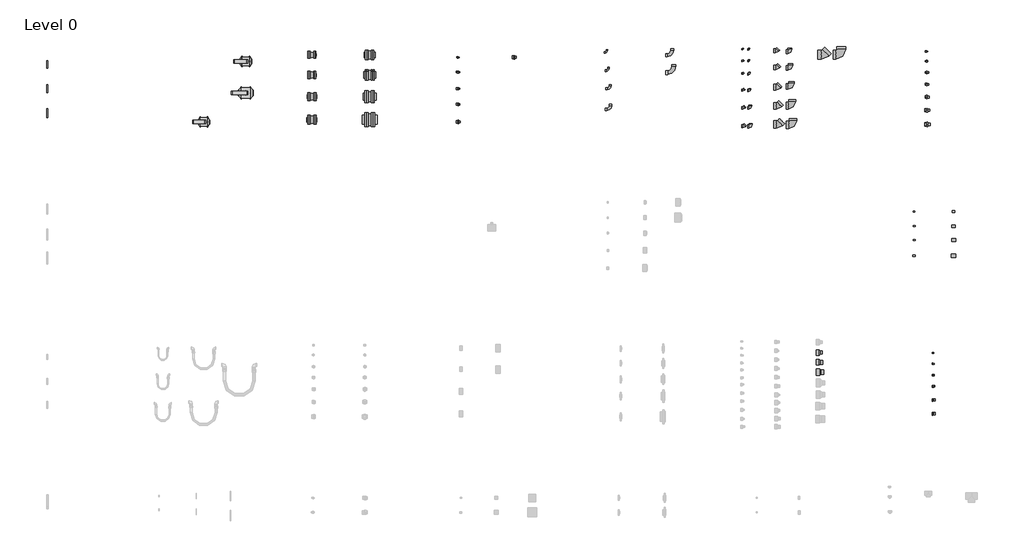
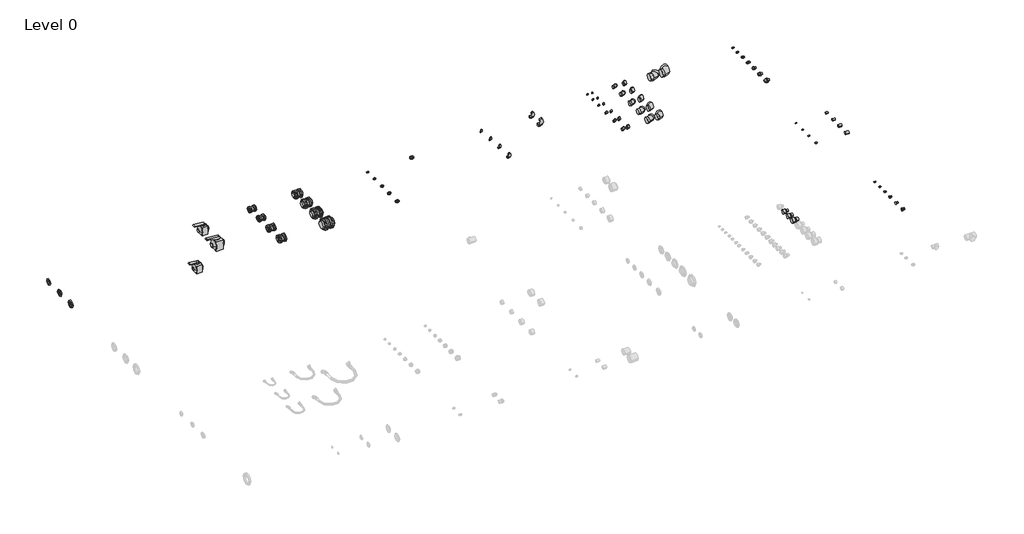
# One storey, part 3 of 3: 122 pipe fittings.
"""IFC4 building model written with IfcOpenShell, lengths in millimetres."""

from ifc_helpers import new_model, si_unit, origin, place, context, project, spatial, transform, mapped, element, save
from components import flangewithoutgasket_flangewithoutgasket_0e128e97, flangewithoutgasket_flangewithoutgasket_c11ec761, flangewithoutgasket_flangewithoutgasket_75658ef2, flangewithoutgasket_flangewithoutgasket_0f328faf, flangewithoutgasket_flangewithoutgasket_49f34aa9, flangewithoutgasket_flangewithoutgasket_a3025326, flangewithoutgasket_flangewithoutgasket_a6fb7cc9, flangewithoutgasket_flangewithoutgasket_14cefbc4, pipe_fitting_d6497ec0, pipe_fitting_d5c0d7c0, pipe_fitting_430ba046, pipe_fitting_2f6c7c8f, pipe_fitting_8ab5439d, pipe_fitting_a5f10939, pipe_fitting_26546776, pipe_fitting_af003660, pipe_fitting_dd4062d5, pipe_fitting_e6044224, pipe_fitting_09979d7b, pipe_fitting_78fec043, pipe_fitting_8b05869d, pipe_fitting_aedb859d, pipe_fitting_1ffd08d4, pipe_fitting_5d5e3ccc, pipe_fitting_993415ac, pipe_fitting_ff2f0a7f, pipe_fitting_2d412168, pipe_fitting_bb0708dc, pipe_fitting_bb9055f2, pipe_fitting_c059fd9e, pipe_fitting_621492b6, pipe_fitting_92fbb631, pipe_fitting_7a057d5c, pipe_fitting_9ead8a00, pipe_fitting_ff391a14, pipe_fitting_5286436a, pipe_fitting_5153c6fe, pipe_fitting_24effa59, pipe_fitting_110mm_c44a19dd, pipe_fitting_110mm_7e1aaf0b, pipe_fitting_110mm_x_63mm_6b177432, pipe_fitting_110mm_x_75mm_89f4cc61, pipe_fitting_125mm_ed8c1b47, pipe_fitting_125mm_x_90mm_875e145c, pipe_fitting_160mm_23897f9d, pipe_fitting_16mm_18e35515, pipe_fitting_8b9ff8c4, pipe_fitting_ef30b169, pipe_fitting_e1098114, pipe_fitting_20mm_6f5dd0fc, pipe_fitting_8244745b, pipe_fitting_e957e6a1, pipe_fitting_4f02a236, pipe_fitting_25mm_cc0c6c5c, pipe_fitting_ca401f2f, pipe_fitting_235ebf4c, pipe_fitting_59aad342, pipe_fitting_32mm_188e78fc, pipe_fitting_89a7494e, pipe_fitting_2be74236, pipe_fitting_e83f6f3e, pipe_fitting_40mm_5f575670, pipe_fitting_40mm_27129087, pipe_fitting_65b0531d, pipe_fitting_8f990732, pipe_fitting_db3966e1, pn16black4holes_800fe3a9, pipe_fitting_50mm_6b35daae, pipe_fitting_50mm_2624cc3b, pipe_fitting_ee8ad272, pipe_fitting_3de398c1, pipe_fitting_80746efc, pn16black4holes_3e359ce1, pipe_fitting_63mm_6bf5f365, pipe_fitting_63mm_ebcf6b7b, pipe_fitting_94a9438e, pn16black4holes_ab1df13b, pipe_fitting_75mm_b05ad406, pipe_fitting_75mm_432ceb5d, pipe_fitting_75mm_297368dc, pipe_fitting_90mm_082ae0c6, pipe_fitting_90mm_207ded17, pn16black8holes_1ed16b56, pn16black8holes_365e30ae, pn16black8holes_7e1fbb1e, pn16white4holes_9e65e146, pn16white8holes_36106536

model = new_model("IFC4")

# Units and contexts
model_context = context("Model", 3, world=origin())
ifc_project = project(units=[si_unit("LENGTHUNIT", "METRE", prefix="MILLI")], contexts=[model_context])

# Site, building, storey
site = spatial("IfcSite", under=ifc_project)
building = spatial("IfcBuilding", under=site)
storey = spatial("IfcBuildingStorey", under=building, Name="Level 0", Elevation=0.0)

# Pipe fittings
placement = place(None, origin())
flangewithoutgasket_flangewithoutgasket_shape = flangewithoutgasket_flangewithoutgasket_0e128e97(model_context)
element("IfcPipeFitting", 1, ObjectType="PipeFitting_GirpiHTA_CPVC_SerratedStubFlangesForPN16 : PipeFitting_GirpiHTA_CPVC_SerratedStubFlangesForPN16", at=placement, inside=storey, context=model_context, shape_type="MappedRepresentation", body=[
    mapped(flangewithoutgasket_flangewithoutgasket_shape, transform((15573.1945596, 159.801483, 0.0), x_axis=(1.0, 0.0, 0.0), y_axis=(0.0, 1.0, 0.0), z_axis=(0.0, 0.0, 1.0))),
])
element("IfcPipeFitting", 2, ObjectType="PipeFitting_GirpiHTA_CPVC_SerratedStubFlangesForPN16 : PipeFitting_GirpiHTA_CPVC_SerratedStubFlangesForPN16", at=placement, inside=storey, context=model_context, shape_type="MappedRepresentation", body=[
    mapped(flangewithoutgasket_flangewithoutgasket_shape, transform((15785.1945596, 159.801483, 0.0), x_axis=(-1.0000000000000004, 0.0, 0.0), y_axis=(0.0, -1.0000000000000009, 0.0), z_axis=(0.0, 0.0, 1.0000000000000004))),
])
flangewithoutgasket_flangewithoutgasket_2_shape = flangewithoutgasket_flangewithoutgasket_c11ec761(model_context)
element("IfcPipeFitting", 3, ObjectType="PipeFitting_GirpiHTA_CPVC_SerratedStubFlangesForPN16 : PipeFitting_GirpiHTA_CPVC_SerratedStubFlangesForPN16", at=placement, inside=storey, context=model_context, shape_type="MappedRepresentation", body=[
    mapped(flangewithoutgasket_flangewithoutgasket_2_shape, transform((14430.1945596, 1484.801483, 0.0), x_axis=(1.0, 0.0, 0.0), y_axis=(0.0, 1.0, 0.0), z_axis=(0.0, 0.0, 1.0))),
])
element("IfcPipeFitting", 4, ObjectType="PipeFitting_GirpiHTA_CPVC_SerratedStubFlangesForPN16 : PipeFitting_GirpiHTA_CPVC_SerratedStubFlangesForPN16", at=placement, inside=storey, context=model_context, shape_type="MappedRepresentation", body=[
    mapped(flangewithoutgasket_flangewithoutgasket_2_shape, transform((14568.1945596, 1484.801483, 0.0), x_axis=(-1.0000000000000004, 0.0, 0.0), y_axis=(0.0, -1.0000000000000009, 0.0), z_axis=(0.0, 0.0, 1.0000000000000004))),
])
flangewithoutgasket_flangewithoutgasket_3_shape = flangewithoutgasket_flangewithoutgasket_75658ef2(model_context)
element("IfcPipeFitting", 5, ObjectType="PipeFitting_GirpiHTA_CPVC_SerratedStubFlangesForPN16 : PipeFitting_GirpiHTA_CPVC_SerratedStubFlangesForPN16", at=placement, inside=storey, context=model_context, shape_type="MappedRepresentation", body=[
    mapped(flangewithoutgasket_flangewithoutgasket_3_shape, transform((14427.6945596, 1074.801483, 0.0), x_axis=(1.0, 0.0, 0.0), y_axis=(0.0, 1.0, 0.0), z_axis=(0.0, 0.0, 1.0))),
])
element("IfcPipeFitting", 6, ObjectType="PipeFitting_GirpiHTA_CPVC_SerratedStubFlangesForPN16 : PipeFitting_GirpiHTA_CPVC_SerratedStubFlangesForPN16", at=placement, inside=storey, context=model_context, shape_type="MappedRepresentation", body=[
    mapped(flangewithoutgasket_flangewithoutgasket_3_shape, transform((14570.6945596, 1074.801483, 0.0), x_axis=(-1.0000000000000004, 0.0, 0.0), y_axis=(0.0, -1.0000000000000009, 0.0), z_axis=(0.0, 0.0, 1.0000000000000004))),
])
flangewithoutgasket_flangewithoutgasket_4_shape = flangewithoutgasket_flangewithoutgasket_0f328faf(model_context)
element("IfcPipeFitting", 7, ObjectType="PipeFitting_GirpiHTA_CPVC_SerratedStubFlangesForPN16 : PipeFitting_GirpiHTA_CPVC_SerratedStubFlangesForPN16", at=placement, inside=storey, context=model_context, shape_type="MappedRepresentation", body=[
    mapped(flangewithoutgasket_flangewithoutgasket_4_shape, transform((14422.1945596, 630.9372281, 0.0), x_axis=(1.0, 0.0, 0.0), y_axis=(0.0, 1.0, 0.0), z_axis=(0.0, 0.0, 1.0))),
])
element("IfcPipeFitting", 8, ObjectType="PipeFitting_GirpiHTA_CPVC_SerratedStubFlangesForPN16 : PipeFitting_GirpiHTA_CPVC_SerratedStubFlangesForPN16", at=placement, inside=storey, context=model_context, shape_type="MappedRepresentation", body=[
    mapped(flangewithoutgasket_flangewithoutgasket_4_shape, transform((14576.1945596, 630.9372281, 0.0), x_axis=(-1.0000000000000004, 0.0, 0.0), y_axis=(0.0, -1.0000000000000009, 0.0), z_axis=(0.0, 0.0, 1.0000000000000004))),
])
flangewithoutgasket_flangewithoutgasket_5_shape = flangewithoutgasket_flangewithoutgasket_49f34aa9(model_context)
element("IfcPipeFitting", 9, ObjectType="PipeFitting_GirpiHTA_CPVC_SerratedStubFlangesForPN16 : PipeFitting_GirpiHTA_CPVC_SerratedStubFlangesForPN16", at=placement, inside=storey, context=model_context, shape_type="MappedRepresentation", body=[
    mapped(flangewithoutgasket_flangewithoutgasket_5_shape, transform((14419.6945596, 159.801483, 0.0), x_axis=(1.0, 0.0, 0.0), y_axis=(0.0, 1.0, 0.0), z_axis=(0.0, 0.0, 1.0))),
])
element("IfcPipeFitting", 10, ObjectType="PipeFitting_GirpiHTA_CPVC_SerratedStubFlangesForPN16 : PipeFitting_GirpiHTA_CPVC_SerratedStubFlangesForPN16", at=placement, inside=storey, context=model_context, shape_type="MappedRepresentation", body=[
    mapped(flangewithoutgasket_flangewithoutgasket_5_shape, transform((14578.6945596, 159.801483, 0.0), x_axis=(-1.0000000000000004, 0.0, 0.0), y_axis=(0.0, -1.0000000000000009, 0.0), z_axis=(0.0, 0.0, 1.0000000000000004))),
])
flangewithoutgasket_flangewithoutgasket_6_shape = flangewithoutgasket_flangewithoutgasket_a3025326(model_context)
element("IfcPipeFitting", 11, ObjectType="PipeFitting_GirpiHTA_CPVC_SerratedStubFlangesForPN16 : PipeFitting_GirpiHTA_CPVC_SerratedStubFlangesForPN16", at=placement, inside=storey, context=model_context, shape_type="MappedRepresentation", body=[
    mapped(flangewithoutgasket_flangewithoutgasket_6_shape, transform((15596.9445596, 1484.801483, 0.0), x_axis=(1.0, 0.0, 0.0), y_axis=(0.0, 1.0, 0.0), z_axis=(0.0, 0.0, 1.0))),
])
element("IfcPipeFitting", 12, ObjectType="PipeFitting_GirpiHTA_CPVC_SerratedStubFlangesForPN16 : PipeFitting_GirpiHTA_CPVC_SerratedStubFlangesForPN16", at=placement, inside=storey, context=model_context, shape_type="MappedRepresentation", body=[
    mapped(flangewithoutgasket_flangewithoutgasket_6_shape, transform((15761.4445596, 1484.801483, 0.0), x_axis=(-1.0000000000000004, 0.0, 0.0), y_axis=(0.0, -1.0000000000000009, 0.0), z_axis=(0.0, 0.0, 1.0000000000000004))),
])
flangewithoutgasket_flangewithoutgasket_7_shape = flangewithoutgasket_flangewithoutgasket_a6fb7cc9(model_context)
element("IfcPipeFitting", 13, ObjectType="PipeFitting_GirpiHTA_CPVC_SerratedStubFlangesForPN16 : PipeFitting_GirpiHTA_CPVC_SerratedStubFlangesForPN16", at=placement, inside=storey, context=model_context, shape_type="MappedRepresentation", body=[
    mapped(flangewithoutgasket_flangewithoutgasket_7_shape, transform((15589.6945596, 1074.801483, 0.0), x_axis=(1.0, 0.0, 0.0), y_axis=(0.0, 1.0, 0.0), z_axis=(0.0, 0.0, 1.0))),
])
element("IfcPipeFitting", 14, ObjectType="PipeFitting_GirpiHTA_CPVC_SerratedStubFlangesForPN16 : PipeFitting_GirpiHTA_CPVC_SerratedStubFlangesForPN16", at=placement, inside=storey, context=model_context, shape_type="MappedRepresentation", body=[
    mapped(flangewithoutgasket_flangewithoutgasket_7_shape, transform((15768.6945596, 1074.801483, 0.0), x_axis=(-1.0000000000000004, 0.0, 0.0), y_axis=(0.0, -1.0000000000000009, 0.0), z_axis=(0.0, 0.0, 1.0000000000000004))),
])
flangewithoutgasket_flangewithoutgasket_8_shape = flangewithoutgasket_flangewithoutgasket_14cefbc4(model_context)
element("IfcPipeFitting", 15, ObjectType="PipeFitting_GirpiHTA_CPVC_SerratedStubFlangesForPN16 : PipeFitting_GirpiHTA_CPVC_SerratedStubFlangesForPN16", at=placement, inside=storey, context=model_context, shape_type="MappedRepresentation", body=[
    mapped(flangewithoutgasket_flangewithoutgasket_8_shape, transform((15584.6945596, 630.9372281, 0.0), x_axis=(1.0, 0.0, 0.0), y_axis=(0.0, 1.0, 0.0), z_axis=(0.0, 0.0, 1.0))),
])
element("IfcPipeFitting", 16, ObjectType="PipeFitting_GirpiHTA_CPVC_SerratedStubFlangesForPN16 : PipeFitting_GirpiHTA_CPVC_SerratedStubFlangesForPN16", at=placement, inside=storey, context=model_context, shape_type="MappedRepresentation", body=[
    mapped(flangewithoutgasket_flangewithoutgasket_8_shape, transform((15773.6945596, 630.9372281, 0.0), x_axis=(-1.0000000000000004, 0.0, 0.0), y_axis=(0.0, -1.0000000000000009, 0.0), z_axis=(0.0, 0.0, 1.0000000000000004))),
])
pipe_fitting_shape = pipe_fitting_d6497ec0(model_context)
element("IfcPipeFitting", 17, ObjectType="PipeFitting_HTA_CPVC_Bends90° : 20mm x 90°", at=placement, inside=storey, context=model_context, shape_type="MappedRepresentation", body=[
    mapped(pipe_fitting_shape, transform((20520.4122364, 1536.8197394, 0.0), x_axis=(1.0, 0.0, 0.0), y_axis=(0.0, 1.0, 0.0), z_axis=(0.0, 0.0, 1.0))),
])
pipe_fitting_2_shape = pipe_fitting_d5c0d7c0(model_context)
element("IfcPipeFitting", 18, ObjectType="PipeFitting_HTA_CPVC_Bends90° : 25mm x 90°", at=placement, inside=storey, context=model_context, shape_type="MappedRepresentation", body=[
    mapped(pipe_fitting_2_shape, transform((20553.1344093, 1163.7869685, 0.0), x_axis=(1.0, 0.0, 0.0), y_axis=(0.0, 1.0, 0.0), z_axis=(0.0, 0.0, 1.0))),
])
pipe_fitting_3_shape = pipe_fitting_430ba046(model_context)
element("IfcPipeFitting", 19, ObjectType="PipeFitting_HTA_CPVC_Bends90° : 32mm x 90°", at=placement, inside=storey, context=model_context, shape_type="MappedRepresentation", body=[
    mapped(pipe_fitting_3_shape, transform((20585.8565822, 794.0264149, 0.0), x_axis=(1.0, 0.0, 0.0), y_axis=(0.0, 1.0, 0.0), z_axis=(0.0, 0.0, 1.0))),
])
pipe_fitting_4_shape = pipe_fitting_2f6c7c8f(model_context)
element("IfcPipeFitting", 20, ObjectType="PipeFitting_HTA_CPVC_Bends90° : 40mm x 90°", at=placement, inside=storey, context=model_context, shape_type="MappedRepresentation", body=[
    mapped(pipe_fitting_4_shape, transform((20595.673234, 371.9103847, 0.0), x_axis=(1.0, 0.0, 0.0), y_axis=(0.0, 1.0, 0.0), z_axis=(0.0, 0.0, 1.0))),
])
pipe_fitting_5_shape = pipe_fitting_8ab5439d(model_context)
element("IfcPipeFitting", 21, ObjectType="PipeFitting_HTA_CPVC_Bends90° : 50mm x 90°", at=placement, inside=storey, context=model_context, shape_type="MappedRepresentation", body=[
    mapped(pipe_fitting_5_shape, transform((21852.2046728, 1481.5026435, 0.0), x_axis=(1.0, 0.0, 0.0), y_axis=(0.0, 1.0, 0.0), z_axis=(0.0, 0.0, 1.0))),
])
pipe_fitting_6_shape = pipe_fitting_a5f10939(model_context)
element("IfcPipeFitting", 22, ObjectType="PipeFitting_HTA_CPVC_Bends90° : 63mm x 90°", at=placement, inside=storey, context=model_context, shape_type="MappedRepresentation", body=[
    mapped(pipe_fitting_6_shape, transform((21884.9268457, 1124.8309591, 0.0), x_axis=(1.0, 0.0, 0.0), y_axis=(0.0, 1.0, 0.0), z_axis=(0.0, 0.0, 1.0))),
])
pipe_fitting_7_shape = pipe_fitting_26546776(model_context)
element("IfcPipeFitting", 23, ObjectType="PipeFitting_HTA_CPVC_Elbows : 16mm x 90°", at=placement, inside=storey, context=model_context, shape_type="MappedRepresentation", body=[
    mapped(pipe_fitting_7_shape, transform((23420.4180525, 1595.5397121, 0.0), x_axis=(1.0, 0.0, 0.0), y_axis=(0.0, 1.0, 0.0), z_axis=(0.0, 0.0, 1.0))),
])
pipe_fitting_8_shape = pipe_fitting_af003660(model_context)
element("IfcPipeFitting", 24, ObjectType="PipeFitting_HTA_CPVC_Elbows : 20mm x 90°", at=placement, inside=storey, context=model_context, shape_type="MappedRepresentation", body=[
    mapped(pipe_fitting_8_shape, transform((23423.4180525, 1357.7013362, 0.0), x_axis=(1.0, 0.0, 0.0), y_axis=(0.0, 1.0, 0.0), z_axis=(0.0, 0.0, 1.0))),
])
pipe_fitting_9_shape = pipe_fitting_dd4062d5(model_context)
element("IfcPipeFitting", 25, ObjectType="PipeFitting_HTA_CPVC_Elbows : 25mm x 90°", at=placement, inside=storey, context=model_context, shape_type="MappedRepresentation", body=[
    mapped(pipe_fitting_9_shape, transform((23429.4180525, 1093.2512655, 0.0), x_axis=(1.0, 0.0, 0.0), y_axis=(0.0, 1.0, 0.0), z_axis=(0.0, 0.0, 1.0))),
])
pipe_fitting_10_shape = pipe_fitting_e6044224(model_context)
element("IfcPipeFitting", 26, ObjectType="PipeFitting_HTA_CPVC_Elbows : 32mm x 90°", at=placement, inside=storey, context=model_context, shape_type="MappedRepresentation", body=[
    mapped(pipe_fitting_10_shape, transform((23436.4180525, 759.4851021, 0.0), x_axis=(1.0, 0.0, 0.0), y_axis=(0.0, 1.0, 0.0), z_axis=(0.0, 0.0, 1.0))),
])
pipe_fitting_11_shape = pipe_fitting_09979d7b(model_context)
element("IfcPipeFitting", 27, ObjectType="PipeFitting_HTA_CPVC_Elbows : 40mm x 90°", at=placement, inside=storey, context=model_context, shape_type="MappedRepresentation", body=[
    mapped(pipe_fitting_11_shape, transform((23444.9180525, 404.7194842, 0.0), x_axis=(1.0, 0.0, 0.0), y_axis=(0.0, 1.0, 0.0), z_axis=(0.0, 0.0, 1.0))),
])
pipe_fitting_12_shape = pipe_fitting_78fec043(model_context)
element("IfcPipeFitting", 28, ObjectType="PipeFitting_HTA_CPVC_Elbows : 50mm x 90°", at=placement, inside=storey, context=model_context, shape_type="MappedRepresentation", body=[
    mapped(pipe_fitting_12_shape, transform((23455.4180525, 23.8988362, 0.0), x_axis=(1.0, 0.0, 0.0), y_axis=(0.0, 1.0, 0.0), z_axis=(0.0, 0.0, 1.0))),
])
pipe_fitting_13_shape = pipe_fitting_8b05869d(model_context)
element("IfcPipeFitting", 29, ObjectType="PipeFitting_HTA_CPVC_Elbows : 63mm x 90°", at=placement, inside=storey, context=model_context, shape_type="MappedRepresentation", body=[
    mapped(pipe_fitting_13_shape, transform((24252.7729484, 1549.6274457, 0.0), x_axis=(1.0, 0.0, 0.0), y_axis=(0.0, 1.0, 0.0), z_axis=(0.0, 0.0, 1.0))),
])
pipe_fitting_14_shape = pipe_fitting_aedb859d(model_context)
element("IfcPipeFitting", 30, ObjectType="PipeFitting_HTA_CPVC_Elbows : 75mm x 90°", at=placement, inside=storey, context=model_context, shape_type="MappedRepresentation", body=[
    mapped(pipe_fitting_14_shape, transform((24265.7729484, 1218.9659598, 0.0), x_axis=(1.0, 0.0, 0.0), y_axis=(0.0, 1.0, 0.0), z_axis=(0.0, 0.0, 1.0))),
])
pipe_fitting_15_shape = pipe_fitting_1ffd08d4(model_context)
element("IfcPipeFitting", 31, ObjectType="PipeFitting_HTA_CPVC_Elbows : 90mm x 90°", at=placement, inside=storey, context=model_context, shape_type="MappedRepresentation", body=[
    mapped(pipe_fitting_15_shape, transform((24281.7729484, 837.2332896, 0.0), x_axis=(1.0, 0.0, 0.0), y_axis=(0.0, 1.0, 0.0), z_axis=(0.0, 0.0, 1.0))),
])
pipe_fitting_16_shape = pipe_fitting_5d5e3ccc(model_context)
element("IfcPipeFitting", 32, ObjectType="PipeFitting_HTA_CPVC_Elbows : 110mm x 90°", at=placement, inside=storey, context=model_context, shape_type="MappedRepresentation", body=[
    mapped(pipe_fitting_16_shape, transform((24302.7729484, 448.9190216, 0.0), x_axis=(1.0, 0.0, 0.0), y_axis=(0.0, 1.0, 0.0), z_axis=(0.0, 0.0, 1.0))),
])
pipe_fitting_17_shape = pipe_fitting_993415ac(model_context)
element("IfcPipeFitting", 33, ObjectType="PipeFitting_HTA_CPVC_Elbows : 125mm x 90°", at=placement, inside=storey, context=model_context, shape_type="MappedRepresentation", body=[
    mapped(pipe_fitting_17_shape, transform((24316.2729484, 54.0231559, 0.0), x_axis=(1.0, 0.0, 0.0), y_axis=(0.0, 1.0, 0.0), z_axis=(0.0, 0.0, 1.0))),
])
pipe_fitting_18_shape = pipe_fitting_ff2f0a7f(model_context)
element("IfcPipeFitting", 34, ObjectType="PipeFitting_HTA_CPVC_Elbows : 160mm x 90°", at=placement, inside=storey, context=model_context, shape_type="MappedRepresentation", body=[
    mapped(pipe_fitting_18_shape, transform((25300.1275117, 1488.8114681, 0.0), x_axis=(1.0, 0.0, 0.0), y_axis=(0.0, 1.0, 0.0), z_axis=(0.0, 0.0, 1.0))),
])
pipe_fitting_19_shape = pipe_fitting_2d412168(model_context)
element("IfcPipeFitting", 35, ObjectType="PipeFitting_HTA_CPVC_Elbows : 16mm x 45°", at=placement, inside=storey, context=model_context, shape_type="MappedRepresentation", body=[
    mapped(pipe_fitting_19_shape, transform((23289.7270671, 1602.9625113, 0.0), x_axis=(1.0, 0.0, 0.0), y_axis=(0.0, 1.0, 0.0), z_axis=(0.0, 0.0, 1.0))),
])
pipe_fitting_20_shape = pipe_fitting_bb0708dc(model_context)
element("IfcPipeFitting", 36, ObjectType="PipeFitting_HTA_CPVC_Elbows : 20mm x 45°", at=placement, inside=storey, context=model_context, shape_type="MappedRepresentation", body=[
    mapped(pipe_fitting_20_shape, transform((23292.7270671, 1360.7013362, 0.0), x_axis=(1.0, 0.0, 0.0), y_axis=(0.0, 1.0, 0.0), z_axis=(0.0, 0.0, 1.0))),
])
pipe_fitting_21_shape = pipe_fitting_bb9055f2(model_context)
element("IfcPipeFitting", 37, ObjectType="PipeFitting_HTA_CPVC_Elbows : 25mm x 45°", at=placement, inside=storey, context=model_context, shape_type="MappedRepresentation", body=[
    mapped(pipe_fitting_21_shape, transform((23295.7270671, 1103.0679174, 0.0), x_axis=(1.0, 0.0, 0.0), y_axis=(0.0, 1.0, 0.0), z_axis=(0.0, 0.0, 1.0))),
])
pipe_fitting_22_shape = pipe_fitting_c059fd9e(model_context)
element("IfcPipeFitting", 38, ObjectType="PipeFitting_HTA_CPVC_Elbows : 32mm x 45°", at=placement, inside=storey, context=model_context, shape_type="MappedRepresentation", body=[
    mapped(pipe_fitting_22_shape, transform((23302.2270671, 766.0295367, 0.0), x_axis=(1.0, 0.0, 0.0), y_axis=(0.0, 1.0, 0.0), z_axis=(0.0, 0.0, 1.0))),
])
pipe_fitting_23_shape = pipe_fitting_621492b6(model_context)
element("IfcPipeFitting", 39, ObjectType="PipeFitting_HTA_CPVC_Elbows : 40mm x 45°", at=placement, inside=storey, context=model_context, shape_type="MappedRepresentation", body=[
    mapped(pipe_fitting_23_shape, transform((23308.2270671, 404.7194842, 0.0), x_axis=(1.0, 0.0, 0.0), y_axis=(0.0, 1.0, 0.0), z_axis=(0.0, 0.0, 1.0))),
])
pipe_fitting_24_shape = pipe_fitting_92fbb631(model_context)
element("IfcPipeFitting", 40, ObjectType="PipeFitting_HTA_CPVC_Elbows : 50mm x 45°", at=placement, inside=storey, context=model_context, shape_type="MappedRepresentation", body=[
    mapped(pipe_fitting_24_shape, transform((23313.7270671, 28.2263436, 0.0), x_axis=(1.0, 0.0, 0.0), y_axis=(0.0, 1.0, 0.0), z_axis=(0.0, 0.0, 1.0))),
])
pipe_fitting_25_shape = pipe_fitting_7a057d5c(model_context)
element("IfcPipeFitting", 41, ObjectType="PipeFitting_HTA_CPVC_Elbows : 63mm x 45°", at=placement, inside=storey, context=model_context, shape_type="MappedRepresentation", body=[
    mapped(pipe_fitting_25_shape, transform((23978.9190877, 1567.7906412, 0.0), x_axis=(1.0, 0.0, 0.0), y_axis=(0.0, 1.0, 0.0), z_axis=(0.0, 0.0, 1.0))),
])
pipe_fitting_26_shape = pipe_fitting_9ead8a00(model_context)
element("IfcPipeFitting", 42, ObjectType="PipeFitting_HTA_CPVC_Elbows : 75mm x 45°", at=placement, inside=storey, context=model_context, shape_type="MappedRepresentation", body=[
    mapped(pipe_fitting_26_shape, transform((23989.4190877, 1232.1291553, 0.0), x_axis=(1.0, 0.0, 0.0), y_axis=(0.0, 1.0, 0.0), z_axis=(0.0, 0.0, 1.0))),
])
pipe_fitting_27_shape = pipe_fitting_ff391a14(model_context)
element("IfcPipeFitting", 43, ObjectType="PipeFitting_HTA_CPVC_Elbows : 90mm x 45°", at=placement, inside=storey, context=model_context, shape_type="MappedRepresentation", body=[
    mapped(pipe_fitting_27_shape, transform((23998.0926966, 824.0700941, 0.0), x_axis=(1.0, 0.0, 0.0), y_axis=(0.0, 1.0, 0.0), z_axis=(0.0, 0.0, 1.0))),
])
pipe_fitting_28_shape = pipe_fitting_5286436a(model_context)
element("IfcPipeFitting", 44, ObjectType="PipeFitting_HTA_CPVC_Elbows : 110mm x 45°", at=placement, inside=storey, context=model_context, shape_type="MappedRepresentation", body=[
    mapped(pipe_fitting_28_shape, transform((24012.4190877, 442.3374239, 0.0), x_axis=(1.0, 0.0, 0.0), y_axis=(0.0, 1.0, 0.0), z_axis=(0.0, 0.0, 1.0))),
])
pipe_fitting_29_shape = pipe_fitting_5153c6fe(model_context)
element("IfcPipeFitting", 45, ObjectType="PipeFitting_HTA_CPVC_Elbows : 125mm x 45°", at=placement, inside=storey, context=model_context, shape_type="MappedRepresentation", body=[
    mapped(pipe_fitting_29_shape, transform((24024.4190877, 60.6047537, 0.0), x_axis=(1.0, 0.0, 0.0), y_axis=(0.0, 1.0, 0.0), z_axis=(0.0, 0.0, 1.0))),
])
pipe_fitting_30_shape = pipe_fitting_24effa59(model_context)
element("IfcPipeFitting", 46, ObjectType="PipeFitting_HTA_CPVC_Elbows : 160mm x 45°", at=placement, inside=storey, context=model_context, shape_type="MappedRepresentation", body=[
    mapped(pipe_fitting_30_shape, transform((24945.7420594, 1488.3010546, 0.0), x_axis=(1.0, 0.0, 0.0), y_axis=(0.0, 1.0, 0.0), z_axis=(0.0, 0.0, 1.0))),
])
pipe_fitting_110mm_shape = pipe_fitting_110mm_c44a19dd(model_context)
element("IfcPipeFitting", 47, ObjectType="PipeAccessory_HTA_CPVC_BallValves_(75-110) : 110mm", at=placement, inside=storey, context=model_context, shape_type="MappedRepresentation", body=[
    mapped(pipe_fitting_110mm_shape, transform((13149.1945596, 705.9372281, 0.0), x_axis=(1.0, 0.0, 0.0), y_axis=(0.0, 1.0, 0.0), z_axis=(0.0, 0.0, 1.0))),
])
pipe_fitting_110mm_2_shape = pipe_fitting_110mm_7e1aaf0b(model_context)
element("IfcPipeFitting", 48, ObjectType="PipeAccessory_HTA_CPVC_LinearExpansionCompensatorPN16 : 110mm", at=placement, inside=storey, context=model_context, shape_type="MappedRepresentation", body=[
    mapped(pipe_fitting_110mm_2_shape, transform((15679.1945596, 1074.801483, 0.0), x_axis=(1.0, 0.0, 0.0), y_axis=(0.0, 1.0, 0.0), z_axis=(0.0, 0.0, 1.0))),
])
pipe_fitting_110mm_x_63mm_shape = pipe_fitting_110mm_x_63mm_6b177432(model_context)
element("IfcPipeFitting", 49, ObjectType="PipeFitting_HTA_CPVC_ReducingBushesLongPattern : 110mm x 63mm", at=placement, inside=storey, context=model_context, shape_type="MappedRepresentation", body=[
    mapped(pipe_fitting_110mm_x_63mm_shape, transform((24789.1945596, -4595.198517, 0.0), x_axis=(1.0, 0.0, 0.0), y_axis=(0.0, 1.0, 0.0), z_axis=(0.0, 0.0, 1.0))),
])
pipe_fitting_110mm_x_75mm_shape = pipe_fitting_110mm_x_75mm_89f4cc61(model_context)
element("IfcPipeFitting", 50, ObjectType="PipeFitting_HTA_CPVC_ReducingBushesLongPattern : 110mm x 75mm", at=placement, inside=storey, context=model_context, shape_type="MappedRepresentation", body=[
    mapped(pipe_fitting_110mm_x_75mm_shape, transform((24789.1945596, -4795.198517, 0.0), x_axis=(1.0, 0.0, 0.0), y_axis=(0.0, 1.0, 0.0), z_axis=(0.0, 0.0, 1.0))),
])
pipe_fitting_125mm_shape = pipe_fitting_125mm_ed8c1b47(model_context)
element("IfcPipeFitting", 51, ObjectType="PipeAccessory_HTA_CPVC_LinearExpansionCompensatorPN16 : 125mm", at=placement, inside=storey, context=model_context, shape_type="MappedRepresentation", body=[
    mapped(pipe_fitting_125mm_shape, transform((15679.1945596, 630.9372281, 0.0), x_axis=(1.0, 0.0, 0.0), y_axis=(0.0, 1.0, 0.0), z_axis=(0.0, 0.0, 1.0))),
])
pipe_fitting_125mm_x_90mm_shape = pipe_fitting_125mm_x_90mm_875e145c(model_context)
element("IfcPipeFitting", 52, ObjectType="PipeFitting_HTA_CPVC_ReducingBushesLongPattern : 125mm x 90mm", at=placement, inside=storey, context=model_context, shape_type="MappedRepresentation", body=[
    mapped(pipe_fitting_125mm_x_90mm_shape, transform((24789.1945596, -4995.198517, 0.0), x_axis=(1.0, 0.0, 0.0), y_axis=(0.0, 1.0, 0.0), z_axis=(0.0, 0.0, 1.0))),
])
pipe_fitting_160mm_shape = pipe_fitting_160mm_23897f9d(model_context)
element("IfcPipeFitting", 53, ObjectType="PipeAccessory_HTA_CPVC_LinearExpansionCompensatorPN16 : 160mm", at=placement, inside=storey, context=model_context, shape_type="MappedRepresentation", body=[
    mapped(pipe_fitting_160mm_shape, transform((15679.1945596, 159.801483, 0.0), x_axis=(1.0, 0.0, 0.0), y_axis=(0.0, 1.0, 0.0), z_axis=(0.0, 0.0, 1.0))),
])
pipe_fitting_16mm_shape = pipe_fitting_16mm_18e35515(model_context)
element("IfcPipeFitting", 54, ObjectType="PipeFitting_HTA_CPVC_PlainNipples : 16mm", at=placement, inside=storey, context=model_context, shape_type="MappedRepresentation", body=[
    mapped(pipe_fitting_16mm_shape, transform((26789.4587782, -1715.3522066, 0.0), x_axis=(1.0, 0.0, 0.0), y_axis=(0.0, 1.0, 0.0), z_axis=(0.0, 0.0, 1.0))),
])
pipe_fitting_31_shape = pipe_fitting_8b9ff8c4(model_context)
element("IfcPipeFitting", 55, ObjectType="PipeFitting_HTA_CPVC_AdaptorNipplesB : 16mm x 1/2\"", at=placement, inside=storey, context=model_context, shape_type="MappedRepresentation", body=[
    mapped(pipe_fitting_31_shape, transform((17459.1945596, 1434.801483, 0.0), x_axis=(1.0, 0.0, 0.0), y_axis=(0.0, 1.0, 0.0), z_axis=(0.0, 0.0, 1.0))),
])
pipe_fitting_32_shape = pipe_fitting_ef30b169(model_context)
element("IfcPipeFitting", 56, ObjectType="PipeFitting_HTA_CPVC_TapConnectorsWithBrassNuts : 16mm x 1/2\"", at=placement, inside=storey, context=model_context, shape_type="MappedRepresentation", body=[
    mapped(pipe_fitting_32_shape, transform((27154.1945596, -4605.198517, 0.0), x_axis=(1.0, 0.0, 0.0), y_axis=(0.0, 1.0, 0.0), z_axis=(0.0, 0.0, 1.0))),
])
pipe_fitting_33_shape = pipe_fitting_e1098114(model_context)
element("IfcPipeFitting", 57, ObjectType="PipeFitting_HTA_CPVC_Male3PieceUnions_(CPVC-Brass) : 16mm x 3/8\"", at=placement, inside=storey, context=model_context, shape_type="MappedRepresentation", body=[
    mapped(pipe_fitting_33_shape, transform((27024.1945596, 1554.801483, 0.0), x_axis=(1.0, 0.0, 0.0), y_axis=(0.0, 1.0, 0.0), z_axis=(0.0, 0.0, 1.0))),
])
pipe_fitting_20mm_shape = pipe_fitting_20mm_6f5dd0fc(model_context)
element("IfcPipeFitting", 58, ObjectType="PipeFitting_HTA_CPVC_PlainNipples : 20mm", at=placement, inside=storey, context=model_context, shape_type="MappedRepresentation", body=[
    mapped(pipe_fitting_20mm_shape, transform((26789.4587782, -2015.3522066, 0.0), x_axis=(1.0, 0.0, 0.0), y_axis=(0.0, 1.0, 0.0), z_axis=(0.0, 0.0, 1.0))),
])
pipe_fitting_34_shape = pipe_fitting_8244745b(model_context)
element("IfcPipeFitting", 59, ObjectType="PipeFitting_HTA_CPVC_Male3PieceUnions_(CPVC-Brass) : 20mm x 1/2\"", at=placement, inside=storey, context=model_context, shape_type="MappedRepresentation", body=[
    mapped(pipe_fitting_34_shape, transform((27024.1945596, 1354.801483, 0.0), x_axis=(1.0, 0.0, 0.0), y_axis=(0.0, 1.0, 0.0), z_axis=(0.0, 0.0, 1.0))),
])
pipe_fitting_35_shape = pipe_fitting_e957e6a1(model_context)
element("IfcPipeFitting", 60, ObjectType="PipeFitting_HTA_CPVC_AdaptorNipplesB : 20mm x 3/4\"", at=placement, inside=storey, context=model_context, shape_type="MappedRepresentation", body=[
    mapped(pipe_fitting_35_shape, transform((17459.1945596, 1134.801483, 0.0), x_axis=(1.0, 0.0, 0.0), y_axis=(0.0, 1.0, 0.0), z_axis=(0.0, 0.0, 1.0))),
])
pipe_fitting_36_shape = pipe_fitting_4f02a236(model_context)
element("IfcPipeFitting", 61, ObjectType="PipeFitting_HTA_CPVC_TapConnectorsWithBrassNuts : 20mm x 3/4\"", at=placement, inside=storey, context=model_context, shape_type="MappedRepresentation", body=[
    mapped(pipe_fitting_36_shape, transform((27154.1945596, -4825.198517, 0.0), x_axis=(1.0, 0.0, 0.0), y_axis=(0.0, 1.0, 0.0), z_axis=(0.0, 0.0, 1.0))),
])
pipe_fitting_25mm_shape = pipe_fitting_25mm_cc0c6c5c(model_context)
element("IfcPipeFitting", 62, ObjectType="PipeFitting_HTA_CPVC_PlainNipples : 25mm", at=placement, inside=storey, context=model_context, shape_type="MappedRepresentation", body=[
    mapped(pipe_fitting_25mm_shape, transform((26789.4587782, -2295.3522066, 0.0), x_axis=(1.0, 0.0, 0.0), y_axis=(0.0, 1.0, 0.0), z_axis=(0.0, 0.0, 1.0))),
])
pipe_fitting_37_shape = pipe_fitting_ca401f2f(model_context)
element("IfcPipeFitting", 63, ObjectType="PipeFitting_HTA_CPVC_AdaptorNipplesB : 25mm x 1\"", at=placement, inside=storey, context=model_context, shape_type="MappedRepresentation", body=[
    mapped(pipe_fitting_37_shape, transform((17459.1945596, 794.801483, 0.0), x_axis=(1.0, 0.0, 0.0), y_axis=(0.0, 1.0, 0.0), z_axis=(0.0, 0.0, 1.0))),
])
pipe_fitting_38_shape = pipe_fitting_235ebf4c(model_context)
element("IfcPipeFitting", 64, ObjectType="PipeFitting_HTA_CPVC_TapConnectorsWithBrassNuts : 25mm x 1\"", at=placement, inside=storey, context=model_context, shape_type="MappedRepresentation", body=[
    mapped(pipe_fitting_38_shape, transform((27154.1945596, -5055.198517, 0.0), x_axis=(1.0, 0.0, 0.0), y_axis=(0.0, 1.0, 0.0), z_axis=(0.0, 0.0, 1.0))),
])
pipe_fitting_39_shape = pipe_fitting_59aad342(model_context)
element("IfcPipeFitting", 65, ObjectType="PipeFitting_HTA_CPVC_Male3PieceUnions_(CPVC-Brass) : 25mm x 3/4\"", at=placement, inside=storey, context=model_context, shape_type="MappedRepresentation", body=[
    mapped(pipe_fitting_39_shape, transform((27024.1945596, 1124.801483, 0.0), x_axis=(1.0, 0.0, 0.0), y_axis=(0.0, 1.0, 0.0), z_axis=(0.0, 0.0, 1.0))),
])
pipe_fitting_32mm_shape = pipe_fitting_32mm_188e78fc(model_context)
element("IfcPipeFitting", 66, ObjectType="PipeFitting_HTA_CPVC_PlainNipples : 32mm", at=placement, inside=storey, context=model_context, shape_type="MappedRepresentation", body=[
    mapped(pipe_fitting_32mm_shape, transform((26789.4587782, -2615.3522066, 0.0), x_axis=(1.0, 0.0, 0.0), y_axis=(0.0, 1.0, 0.0), z_axis=(0.0, 0.0, 1.0))),
])
pipe_fitting_40_shape = pipe_fitting_89a7494e(model_context)
element("IfcPipeFitting", 67, ObjectType="PipeFitting_HTA_CPVC_Male3PieceUnions_(CPVC-Brass) : 32mm x 1\"", at=placement, inside=storey, context=model_context, shape_type="MappedRepresentation", body=[
    mapped(pipe_fitting_40_shape, transform((27024.1945596, 884.801483, 0.0), x_axis=(1.0, 0.0, 0.0), y_axis=(0.0, 1.0, 0.0), z_axis=(0.0, 0.0, 1.0))),
])
pipe_fitting_41_shape = pipe_fitting_2be74236(model_context)
element("IfcPipeFitting", 68, ObjectType="PipeFitting_HTA_CPVC_AdaptorNipplesB : 32mm x 1\"1/4", at=placement, inside=storey, context=model_context, shape_type="MappedRepresentation", body=[
    mapped(pipe_fitting_41_shape, transform((17459.1945596, 474.801483, 0.0), x_axis=(1.0, 0.0, 0.0), y_axis=(0.0, 1.0, 0.0), z_axis=(0.0, 0.0, 1.0))),
])
pipe_fitting_42_shape = pipe_fitting_e83f6f3e(model_context)
element("IfcPipeFitting", 69, ObjectType="PipeFitting_HTA_CPVC_TapConnectorsWithBrassNuts : 32mm x 1\"1/4", at=placement, inside=storey, context=model_context, shape_type="MappedRepresentation", body=[
    mapped(pipe_fitting_42_shape, transform((27154.1945596, -5285.198517, 0.0), x_axis=(1.0, 0.0, 0.0), y_axis=(0.0, 1.0, 0.0), z_axis=(0.0, 0.0, 1.0))),
])
pipe_fitting_40mm_shape = pipe_fitting_40mm_5f575670(model_context)
element("IfcPipeFitting", 70, ObjectType="PipeAccessory_HTA_CPVC_LinearExpansionCompensatorPN16 : 40mm", at=placement, inside=storey, context=model_context, shape_type="MappedRepresentation", body=[
    mapped(pipe_fitting_40mm_shape, transform((14499.1945596, 1484.801483, 0.0), x_axis=(1.0, 0.0, 0.0), y_axis=(0.0, 1.0, 0.0), z_axis=(0.0, 0.0, 1.0))),
])
pipe_fitting_40mm_2_shape = pipe_fitting_40mm_27129087(model_context)
element("IfcPipeFitting", 71, ObjectType="PipeFitting_HTA_CPVC_PlainNipples : 40mm", at=placement, inside=storey, context=model_context, shape_type="MappedRepresentation", body=[
    mapped(pipe_fitting_40mm_2_shape, transform((27593.184488, -1715.3522066, 0.0), x_axis=(1.0, 0.0, 0.0), y_axis=(0.0, 1.0, 0.0), z_axis=(0.0, 0.0, 1.0))),
])
pipe_fitting_43_shape = pipe_fitting_65b0531d(model_context)
element("IfcPipeFitting", 72, ObjectType="PipeFitting_HTA_CPVC_AdaptorNipplesB : 40mm x 1\"1/2", at=placement, inside=storey, context=model_context, shape_type="MappedRepresentation", body=[
    mapped(pipe_fitting_43_shape, transform((17459.1945596, 114.801483, 0.0), x_axis=(1.0, 0.0, 0.0), y_axis=(0.0, 1.0, 0.0), z_axis=(0.0, 0.0, 1.0))),
])
pipe_fitting_44_shape = pipe_fitting_8f990732(model_context)
element("IfcPipeFitting", 73, ObjectType="PipeFitting_HTA_CPVC_TapConnectorsWithBrassNuts : 40mm x 1\"1/2", at=placement, inside=storey, context=model_context, shape_type="MappedRepresentation", body=[
    mapped(pipe_fitting_44_shape, transform((27154.1945596, -5565.198517, 0.0), x_axis=(1.0, 0.0, 0.0), y_axis=(0.0, 1.0, 0.0), z_axis=(0.0, 0.0, 1.0))),
])
pipe_fitting_45_shape = pipe_fitting_db3966e1(model_context)
element("IfcPipeFitting", 74, ObjectType="PipeFitting_HTA_CPVC_Male3PieceUnions_(CPVC-Brass) : 40mm x 1\"1/4", at=placement, inside=storey, context=model_context, shape_type="MappedRepresentation", body=[
    mapped(pipe_fitting_45_shape, transform((27024.1945596, 624.801483, 0.0), x_axis=(1.0, 0.0, 0.0), y_axis=(0.0, 1.0, 0.0), z_axis=(0.0, 0.0, 1.0))),
])
pn16black4holes_shape = pn16black4holes_800fe3a9(model_context)
element("IfcPipeFitting", 75, ObjectType="PipeAccessory_HTA_CPVC_BackingRingsPN16Black4Holes : 50mm", at=placement, inside=storey, context=model_context, shape_type="MappedRepresentation", body=[
    mapped(pn16black4holes_shape, transform((9099.1945596, 1290.9372281, 0.0), x_axis=(1.0, 0.0, 0.0), y_axis=(0.0, 1.0, 0.0), z_axis=(0.0, 0.0, 1.0))),
])
pipe_fitting_50mm_shape = pipe_fitting_50mm_6b35daae(model_context)
element("IfcPipeFitting", 76, ObjectType="PipeAccessory_HTA_CPVC_LinearExpansionCompensatorPN16 : 50mm", at=placement, inside=storey, context=model_context, shape_type="MappedRepresentation", body=[
    mapped(pipe_fitting_50mm_shape, transform((14499.1945596, 1074.801483, 0.0), x_axis=(1.0, 0.0, 0.0), y_axis=(0.0, 1.0, 0.0), z_axis=(0.0, 0.0, 1.0))),
])
pipe_fitting_50mm_2_shape = pipe_fitting_50mm_2624cc3b(model_context)
element("IfcPipeFitting", 77, ObjectType="PipeFitting_HTA_CPVC_PlainNipples : 50mm", at=placement, inside=storey, context=model_context, shape_type="MappedRepresentation", body=[
    mapped(pipe_fitting_50mm_2_shape, transform((27593.184488, -2015.3522066, 0.0), x_axis=(1.0, 0.0, 0.0), y_axis=(0.0, 1.0, 0.0), z_axis=(0.0, 0.0, 1.0))),
])
pipe_fitting_46_shape = pipe_fitting_ee8ad272(model_context)
element("IfcPipeFitting", 78, ObjectType="PipeFitting_HTA_CPVC_Male3PieceUnions_(CPVC-Brass) : 50mm x 1\"1/2", at=placement, inside=storey, context=model_context, shape_type="MappedRepresentation", body=[
    mapped(pipe_fitting_46_shape, transform((27024.1945596, 354.801483, 0.0), x_axis=(1.0, 0.0, 0.0), y_axis=(0.0, 1.0, 0.0), z_axis=(0.0, 0.0, 1.0))),
])
pipe_fitting_47_shape = pipe_fitting_3de398c1(model_context)
element("IfcPipeFitting", 79, ObjectType="PipeFitting_HTA_CPVC_AdaptorNipplesB : 50mm x 2\"", at=placement, inside=storey, context=model_context, shape_type="MappedRepresentation", body=[
    mapped(pipe_fitting_47_shape, transform((18599.1945596, 1434.801483, 0.0), x_axis=(1.0, 0.0, 0.0), y_axis=(0.0, 1.0, 0.0), z_axis=(0.0, 0.0, 1.0))),
])
pipe_fitting_48_shape = pipe_fitting_80746efc(model_context)
element("IfcPipeFitting", 80, ObjectType="PipeFitting_HTA_CPVC_TapConnectorsWithBrassNuts : 50mm x 2\"", at=placement, inside=storey, context=model_context, shape_type="MappedRepresentation", body=[
    mapped(pipe_fitting_48_shape, transform((27154.1945596, -5845.198517, 0.0), x_axis=(1.0, 0.0, 0.0), y_axis=(0.0, 1.0, 0.0), z_axis=(0.0, 0.0, 1.0))),
])
pn16black4holes_2_shape = pn16black4holes_3e359ce1(model_context)
element("IfcPipeFitting", 81, ObjectType="PipeAccessory_HTA_CPVC_BackingRingsPN16Black4Holes : 63mm", at=placement, inside=storey, context=model_context, shape_type="MappedRepresentation", body=[
    mapped(pn16black4holes_2_shape, transform((9099.1945596, 790.9372281, 0.0), x_axis=(1.0, 0.0, 0.0), y_axis=(0.0, 1.0, 0.0), z_axis=(0.0, 0.0, 1.0))),
])
pipe_fitting_63mm_shape = pipe_fitting_63mm_6bf5f365(model_context)
element("IfcPipeFitting", 82, ObjectType="PipeAccessory_HTA_CPVC_LinearExpansionCompensatorPN16 : 63mm", at=placement, inside=storey, context=model_context, shape_type="MappedRepresentation", body=[
    mapped(pipe_fitting_63mm_shape, transform((14499.1945596, 630.9372281, 0.0), x_axis=(1.0, 0.0, 0.0), y_axis=(0.0, 1.0, 0.0), z_axis=(0.0, 0.0, 1.0))),
])
pipe_fitting_63mm_2_shape = pipe_fitting_63mm_ebcf6b7b(model_context)
element("IfcPipeFitting", 83, ObjectType="PipeFitting_HTA_CPVC_PlainNipples : 63mm", at=placement, inside=storey, context=model_context, shape_type="MappedRepresentation", body=[
    mapped(pipe_fitting_63mm_2_shape, transform((27593.184488, -2295.3522066, 0.0), x_axis=(1.0, 0.0, 0.0), y_axis=(0.0, 1.0, 0.0), z_axis=(0.0, 0.0, 1.0))),
])
pipe_fitting_49_shape = pipe_fitting_94a9438e(model_context)
element("IfcPipeFitting", 84, ObjectType="PipeFitting_HTA_CPVC_Male3PieceUnions_(CPVC-Brass) : 63mm x 2\"", at=placement, inside=storey, context=model_context, shape_type="MappedRepresentation", body=[
    mapped(pipe_fitting_49_shape, transform((27024.1945596, 64.801483, 0.0), x_axis=(1.0, 0.0, 0.0), y_axis=(0.0, 1.0, 0.0), z_axis=(0.0, 0.0, 1.0))),
])
pn16black4holes_3_shape = pn16black4holes_ab1df13b(model_context)
element("IfcPipeFitting", 85, ObjectType="PipeAccessory_HTA_CPVC_BackingRingsPN16Black4Holes : 75mm", at=placement, inside=storey, context=model_context, shape_type="MappedRepresentation", body=[
    mapped(pn16black4holes_3_shape, transform((9099.1945596, 290.9372281, 0.0), x_axis=(1.0, 0.0, 0.0), y_axis=(0.0, 1.0, 0.0), z_axis=(0.0, 0.0, 1.0))),
])
pipe_fitting_75mm_shape = pipe_fitting_75mm_b05ad406(model_context)
element("IfcPipeFitting", 86, ObjectType="PipeAccessory_HTA_CPVC_BallValves_(75-110) : 75mm", at=placement, inside=storey, context=model_context, shape_type="MappedRepresentation", body=[
    mapped(pipe_fitting_75mm_shape, transform((12294.1945596, 114.801483, 0.0), x_axis=(1.0, 0.0, 0.0), y_axis=(0.0, 1.0, 0.0), z_axis=(0.0, 0.0, 1.0))),
])
pipe_fitting_75mm_2_shape = pipe_fitting_75mm_432ceb5d(model_context)
element("IfcPipeFitting", 87, ObjectType="PipeAccessory_HTA_CPVC_LinearExpansionCompensatorPN16 : 75mm", at=placement, inside=storey, context=model_context, shape_type="MappedRepresentation", body=[
    mapped(pipe_fitting_75mm_2_shape, transform((14499.1945596, 159.801483, 0.0), x_axis=(1.0, 0.0, 0.0), y_axis=(0.0, 1.0, 0.0), z_axis=(0.0, 0.0, 1.0))),
])
pipe_fitting_75mm_3_shape = pipe_fitting_75mm_297368dc(model_context)
element("IfcPipeFitting", 88, ObjectType="PipeFitting_HTA_CPVC_PlainNipples : 75mm", at=placement, inside=storey, context=model_context, shape_type="MappedRepresentation", body=[
    mapped(pipe_fitting_75mm_3_shape, transform((27593.184488, -2615.3522066, 0.0), x_axis=(1.0, 0.0, 0.0), y_axis=(0.0, 1.0, 0.0), z_axis=(0.0, 0.0, 1.0))),
])
pipe_fitting_90mm_shape = pipe_fitting_90mm_082ae0c6(model_context)
element("IfcPipeFitting", 89, ObjectType="PipeAccessory_HTA_CPVC_BallValves_(75-110) : 90mm", at=placement, inside=storey, context=model_context, shape_type="MappedRepresentation", body=[
    mapped(pipe_fitting_90mm_shape, transform((13149.1945596, 1350.9372281, 0.0), x_axis=(1.0, 0.0, 0.0), y_axis=(0.0, 1.0, 0.0), z_axis=(0.0, 0.0, 1.0))),
])
pipe_fitting_90mm_2_shape = pipe_fitting_90mm_207ded17(model_context)
element("IfcPipeFitting", 90, ObjectType="PipeAccessory_HTA_CPVC_LinearExpansionCompensatorPN16 : 90mm", at=placement, inside=storey, context=model_context, shape_type="MappedRepresentation", body=[
    mapped(pipe_fitting_90mm_2_shape, transform((15679.1945596, 1484.801483, 0.0), x_axis=(1.0, 0.0, 0.0), y_axis=(0.0, 1.0, 0.0), z_axis=(0.0, 0.0, 1.0))),
])
element("IfcPipeFitting", 91, ObjectType="PipeAccessory_GirpiHTA_CPVC_BackingRingsPN16Black4HolesForPN16 : PN16Black4Holes", at=placement, inside=storey, context=model_context, shape_type="MappedRepresentation", body=[
    mapped(pn16black4holes_3_shape, transform((14544.1945596, 159.801483, 0.0), x_axis=(1.0, 0.0, 0.0), y_axis=(0.0, 1.0, 0.0), z_axis=(0.0, 0.0, 1.0))),
])
element("IfcPipeFitting", 92, ObjectType="PipeAccessory_GirpiHTA_CPVC_BackingRingsPN16Black4HolesForPN16 : PN16Black4Holes", at=placement, inside=storey, context=model_context, shape_type="MappedRepresentation", body=[
    mapped(pn16black4holes_3_shape, transform((14576.1945596, 159.801483, 0.0), x_axis=(1.0, 0.0, 0.0), y_axis=(0.0, 1.0, 0.0), z_axis=(0.0, 0.0, 1.0))),
])
element("IfcPipeFitting", 93, ObjectType="PipeAccessory_GirpiHTA_CPVC_BackingRingsPN16Black4HolesForPN16 : PN16Black4Holes", at=placement, inside=storey, context=model_context, shape_type="MappedRepresentation", body=[
    mapped(pn16black4holes_3_shape, transform((14422.1945596, 159.801483, 0.0), x_axis=(1.0, 0.0, 0.0), y_axis=(0.0, 1.0, 0.0), z_axis=(0.0, 0.0, 1.0))),
])
element("IfcPipeFitting", 94, ObjectType="PipeAccessory_GirpiHTA_CPVC_BackingRingsPN16Black4HolesForPN16 : PN16Black4Holes", at=placement, inside=storey, context=model_context, shape_type="MappedRepresentation", body=[
    mapped(pn16black4holes_3_shape, transform((14454.1945596, 159.801483, 0.0), x_axis=(1.0, 0.0, 0.0), y_axis=(0.0, 1.0, 0.0), z_axis=(0.0, 0.0, 1.0))),
])
pn16black8holes_shape = pn16black8holes_1ed16b56(model_context)
element("IfcPipeFitting", 95, ObjectType="PipeAccessory_GirpiHTA_CPVC_BackingRingsPN16Black8HolesForPN16 : PN16Black8Holes", at=placement, inside=storey, context=model_context, shape_type="MappedRepresentation", body=[
    mapped(pn16black8holes_shape, transform((15722.1945596, 1484.801483, 0.0), x_axis=(1.0, 0.0, 0.0), y_axis=(0.0, 1.0, 0.0), z_axis=(0.0, 0.0, 1.0))),
])
element("IfcPipeFitting", 96, ObjectType="PipeAccessory_GirpiHTA_CPVC_BackingRingsPN16Black8HolesForPN16 : PN16Black8Holes", at=placement, inside=storey, context=model_context, shape_type="MappedRepresentation", body=[
    mapped(pn16black8holes_shape, transform((15755.1945596, 1484.801483, 0.0), x_axis=(1.0, 0.0, 0.0), y_axis=(0.0, 1.0, 0.0), z_axis=(0.0, 0.0, 1.0))),
])
element("IfcPipeFitting", 97, ObjectType="PipeAccessory_GirpiHTA_CPVC_BackingRingsPN16Black8HolesForPN16 : PN16Black8Holes", at=placement, inside=storey, context=model_context, shape_type="MappedRepresentation", body=[
    mapped(pn16black8holes_shape, transform((15603.1945596, 1484.801483, 0.0), x_axis=(1.0, 0.0, 0.0), y_axis=(0.0, 1.0, 0.0), z_axis=(0.0, 0.0, 1.0))),
])
element("IfcPipeFitting", 98, ObjectType="PipeAccessory_GirpiHTA_CPVC_BackingRingsPN16Black8HolesForPN16 : PN16Black8Holes", at=placement, inside=storey, context=model_context, shape_type="MappedRepresentation", body=[
    mapped(pn16black8holes_shape, transform((15636.1945596, 1484.801483, 0.0), x_axis=(1.0, 0.0, 0.0), y_axis=(0.0, 1.0, 0.0), z_axis=(0.0, 0.0, 1.0))),
])
pn16black8holes_2_shape = pn16black8holes_365e30ae(model_context)
element("IfcPipeFitting", 99, ObjectType="PipeAccessory_GirpiHTA_CPVC_BackingRingsPN16Black8HolesForPN16 : PN16Black8Holes", at=placement, inside=storey, context=model_context, shape_type="MappedRepresentation", body=[
    mapped(pn16black8holes_2_shape, transform((15723.1945596, 1074.801483, 0.0), x_axis=(1.0, 0.0, 0.0), y_axis=(0.0, 1.0, 0.0), z_axis=(0.0, 0.0, 1.0))),
])
element("IfcPipeFitting", 100, ObjectType="PipeAccessory_GirpiHTA_CPVC_BackingRingsPN16Black8HolesForPN16 : PN16Black8Holes", at=placement, inside=storey, context=model_context, shape_type="MappedRepresentation", body=[
    mapped(pn16black8holes_2_shape, transform((15759.1945596, 1074.801483, 0.0), x_axis=(1.0, 0.0, 0.0), y_axis=(0.0, 1.0, 0.0), z_axis=(0.0, 0.0, 1.0))),
])
element("IfcPipeFitting", 101, ObjectType="PipeAccessory_GirpiHTA_CPVC_BackingRingsPN16Black8HolesForPN16 : PN16Black8Holes", at=placement, inside=storey, context=model_context, shape_type="MappedRepresentation", body=[
    mapped(pn16black8holes_2_shape, transform((15599.1945596, 1074.801483, 0.0), x_axis=(1.0, 0.0, 0.0), y_axis=(0.0, 1.0, 0.0), z_axis=(0.0, 0.0, 1.0))),
])
element("IfcPipeFitting", 102, ObjectType="PipeAccessory_GirpiHTA_CPVC_BackingRingsPN16Black8HolesForPN16 : PN16Black8Holes", at=placement, inside=storey, context=model_context, shape_type="MappedRepresentation", body=[
    mapped(pn16black8holes_2_shape, transform((15635.1945596, 1074.801483, 0.0), x_axis=(1.0, 0.0, 0.0), y_axis=(0.0, 1.0, 0.0), z_axis=(0.0, 0.0, 1.0))),
])
pn16black8holes_3_shape = pn16black8holes_7e1fbb1e(model_context)
element("IfcPipeFitting", 103, ObjectType="PipeAccessory_GirpiHTA_CPVC_BackingRingsPN16Black8HolesForPN16 : PN16Black8Holes", at=placement, inside=storey, context=model_context, shape_type="MappedRepresentation", body=[
    mapped(pn16black8holes_3_shape, transform((15724.1945596, 630.9372281, 0.0), x_axis=(1.0, 0.0, 0.0), y_axis=(0.0, 1.0, 0.0), z_axis=(0.0, 0.0, 1.0))),
])
element("IfcPipeFitting", 104, ObjectType="PipeAccessory_GirpiHTA_CPVC_BackingRingsPN16Black8HolesForPN16 : PN16Black8Holes", at=placement, inside=storey, context=model_context, shape_type="MappedRepresentation", body=[
    mapped(pn16black8holes_3_shape, transform((15763.1945596, 630.9372281, 0.0), x_axis=(1.0, 0.0, 0.0), y_axis=(0.0, 1.0, 0.0), z_axis=(0.0, 0.0, 1.0))),
])
element("IfcPipeFitting", 105, ObjectType="PipeAccessory_GirpiHTA_CPVC_BackingRingsPN16Black8HolesForPN16 : PN16Black8Holes", at=placement, inside=storey, context=model_context, shape_type="MappedRepresentation", body=[
    mapped(pn16black8holes_3_shape, transform((15595.1945596, 630.9372281, 0.0), x_axis=(1.0, 0.0, 0.0), y_axis=(0.0, 1.0, 0.0), z_axis=(0.0, 0.0, 1.0))),
])
element("IfcPipeFitting", 106, ObjectType="PipeAccessory_GirpiHTA_CPVC_BackingRingsPN16Black8HolesForPN16 : PN16Black8Holes", at=placement, inside=storey, context=model_context, shape_type="MappedRepresentation", body=[
    mapped(pn16black8holes_3_shape, transform((15634.1945596, 630.9372281, 0.0), x_axis=(1.0, 0.0, 0.0), y_axis=(0.0, 1.0, 0.0), z_axis=(0.0, 0.0, 1.0))),
])
pn16white4holes_shape = pn16white4holes_9e65e146(model_context)
element("IfcPipeFitting", 107, ObjectType="PipeAccessory_GirpiHTA_CPVC_BackingRingsPN16White4HolesForPN16 : PN16White4Holes", at=placement, inside=storey, context=model_context, shape_type="MappedRepresentation", body=[
    mapped(pn16white4holes_shape, transform((14543.1945596, 1484.801483, 0.0), x_axis=(1.0, 0.0, 0.0), y_axis=(0.0, 1.0, 0.0), z_axis=(0.0, 0.0, 1.0))),
])
element("IfcPipeFitting", 108, ObjectType="PipeAccessory_GirpiHTA_CPVC_BackingRingsPN16White4HolesForPN16 : PN16White4Holes", at=placement, inside=storey, context=model_context, shape_type="MappedRepresentation", body=[
    mapped(pn16white4holes_shape, transform((14571.1945596, 1484.801483, 0.0), x_axis=(1.0, 0.0, 0.0), y_axis=(0.0, 1.0, 0.0), z_axis=(0.0, 0.0, 1.0))),
])
element("IfcPipeFitting", 109, ObjectType="PipeAccessory_GirpiHTA_CPVC_BackingRingsPN16White4HolesForPN16 : PN16White4Holes", at=placement, inside=storey, context=model_context, shape_type="MappedRepresentation", body=[
    mapped(pn16white4holes_shape, transform((14455.1945596, 1484.801483, 0.0), x_axis=(1.0, 0.0, 0.0), y_axis=(0.0, 1.0, 0.0), z_axis=(0.0, 0.0, 1.0))),
])
element("IfcPipeFitting", 110, ObjectType="PipeAccessory_GirpiHTA_CPVC_BackingRingsPN16White4HolesForPN16 : PN16White4Holes", at=placement, inside=storey, context=model_context, shape_type="MappedRepresentation", body=[
    mapped(pn16white4holes_shape, transform((14427.1945596, 1484.801483, 0.0), x_axis=(1.0, 0.0, 0.0), y_axis=(0.0, 1.0, 0.0), z_axis=(0.0, 0.0, 1.0))),
])
element("IfcPipeFitting", 111, ObjectType="PipeAccessory_GirpiHTA_CPVC_BackingRingsPN16White4HolesForPN16 : PN16White4Holes", at=placement, inside=storey, context=model_context, shape_type="MappedRepresentation", body=[
    mapped(pn16black4holes_shape, transform((14542.1945596, 1074.801483, 0.0), x_axis=(1.0, 0.0, 0.0), y_axis=(0.0, 1.0, 0.0), z_axis=(0.0, 0.0, 1.0))),
])
element("IfcPipeFitting", 112, ObjectType="PipeAccessory_GirpiHTA_CPVC_BackingRingsPN16White4HolesForPN16 : PN16White4Holes", at=placement, inside=storey, context=model_context, shape_type="MappedRepresentation", body=[
    mapped(pn16black4holes_shape, transform((14570.1945596, 1074.801483, 0.0), x_axis=(1.0, 0.0, 0.0), y_axis=(0.0, 1.0, 0.0), z_axis=(0.0, 0.0, 1.0))),
])
element("IfcPipeFitting", 113, ObjectType="PipeAccessory_GirpiHTA_CPVC_BackingRingsPN16White4HolesForPN16 : PN16White4Holes", at=placement, inside=storey, context=model_context, shape_type="MappedRepresentation", body=[
    mapped(pn16black4holes_shape, transform((14456.1945596, 1074.801483, 0.0), x_axis=(1.0, 0.0, 0.0), y_axis=(0.0, 1.0, 0.0), z_axis=(0.0, 0.0, 1.0))),
])
element("IfcPipeFitting", 114, ObjectType="PipeAccessory_GirpiHTA_CPVC_BackingRingsPN16White4HolesForPN16 : PN16White4Holes", at=placement, inside=storey, context=model_context, shape_type="MappedRepresentation", body=[
    mapped(pn16black4holes_shape, transform((14428.1945596, 1074.801483, 0.0), x_axis=(1.0, 0.0, 0.0), y_axis=(0.0, 1.0, 0.0), z_axis=(0.0, 0.0, 1.0))),
])
element("IfcPipeFitting", 115, ObjectType="PipeAccessory_GirpiHTA_CPVC_BackingRingsPN16White4HolesForPN16 : PN16White4Holes", at=placement, inside=storey, context=model_context, shape_type="MappedRepresentation", body=[
    mapped(pn16black4holes_2_shape, transform((14542.6945596, 630.9372281, 0.0), x_axis=(1.0, 0.0, 0.0), y_axis=(0.0, 1.0, 0.0), z_axis=(0.0, 0.0, 1.0))),
])
element("IfcPipeFitting", 116, ObjectType="PipeAccessory_GirpiHTA_CPVC_BackingRingsPN16White4HolesForPN16 : PN16White4Holes", at=placement, inside=storey, context=model_context, shape_type="MappedRepresentation", body=[
    mapped(pn16black4holes_2_shape, transform((14573.6945596, 630.9372281, 0.0), x_axis=(1.0, 0.0, 0.0), y_axis=(0.0, 1.0, 0.0), z_axis=(0.0, 0.0, 1.0))),
])
element("IfcPipeFitting", 117, ObjectType="PipeAccessory_GirpiHTA_CPVC_BackingRingsPN16White4HolesForPN16 : PN16White4Holes", at=placement, inside=storey, context=model_context, shape_type="MappedRepresentation", body=[
    mapped(pn16black4holes_2_shape, transform((14455.6945596, 630.9372281, 0.0), x_axis=(1.0, 0.0, 0.0), y_axis=(0.0, 1.0, 0.0), z_axis=(0.0, 0.0, 1.0))),
])
element("IfcPipeFitting", 118, ObjectType="PipeAccessory_GirpiHTA_CPVC_BackingRingsPN16White4HolesForPN16 : PN16White4Holes", at=placement, inside=storey, context=model_context, shape_type="MappedRepresentation", body=[
    mapped(pn16black4holes_2_shape, transform((14424.6945596, 630.9372281, 0.0), x_axis=(1.0, 0.0, 0.0), y_axis=(0.0, 1.0, 0.0), z_axis=(0.0, 0.0, 1.0))),
])
pn16white8holes_shape = pn16white8holes_36106536(model_context)
element("IfcPipeFitting", 119, ObjectType="PipeAccessory_GirpiHTA_CPVC_BackingRingsPN16White8HolesForPN16 : PN16White8Holes", at=placement, inside=storey, context=model_context, shape_type="MappedRepresentation", body=[
    mapped(pn16white8holes_shape, transform((15724.1945596, 159.801483, 0.0), x_axis=(1.0, 0.0, 0.0), y_axis=(0.0, 1.0, 0.0), z_axis=(0.0, 0.0, 1.0))),
])
element("IfcPipeFitting", 120, ObjectType="PipeAccessory_GirpiHTA_CPVC_BackingRingsPN16White8HolesForPN16 : PN16White8Holes", at=placement, inside=storey, context=model_context, shape_type="MappedRepresentation", body=[
    mapped(pn16white8holes_shape, transform((15770.1945596, 159.801483, 0.0), x_axis=(1.0, 0.0, 0.0), y_axis=(0.0, 1.0, 0.0), z_axis=(0.0, 0.0, 1.0))),
])
element("IfcPipeFitting", 121, ObjectType="PipeAccessory_GirpiHTA_CPVC_BackingRingsPN16White8HolesForPN16 : PN16White8Holes", at=placement, inside=storey, context=model_context, shape_type="MappedRepresentation", body=[
    mapped(pn16white8holes_shape, transform((15588.1945596, 159.801483, 0.0), x_axis=(1.0, 0.0, 0.0), y_axis=(0.0, 1.0, 0.0), z_axis=(0.0, 0.0, 1.0))),
])
element("IfcPipeFitting", 122, ObjectType="PipeAccessory_GirpiHTA_CPVC_BackingRingsPN16White8HolesForPN16 : PN16White8Holes", at=placement, inside=storey, context=model_context, shape_type="MappedRepresentation", body=[
    mapped(pn16white8holes_shape, transform((15634.1945596, 159.801483, 0.0), x_axis=(1.0, 0.0, 0.0), y_axis=(0.0, 1.0, 0.0), z_axis=(0.0, 0.0, 1.0))),
])

save(model, "model.ifc")
